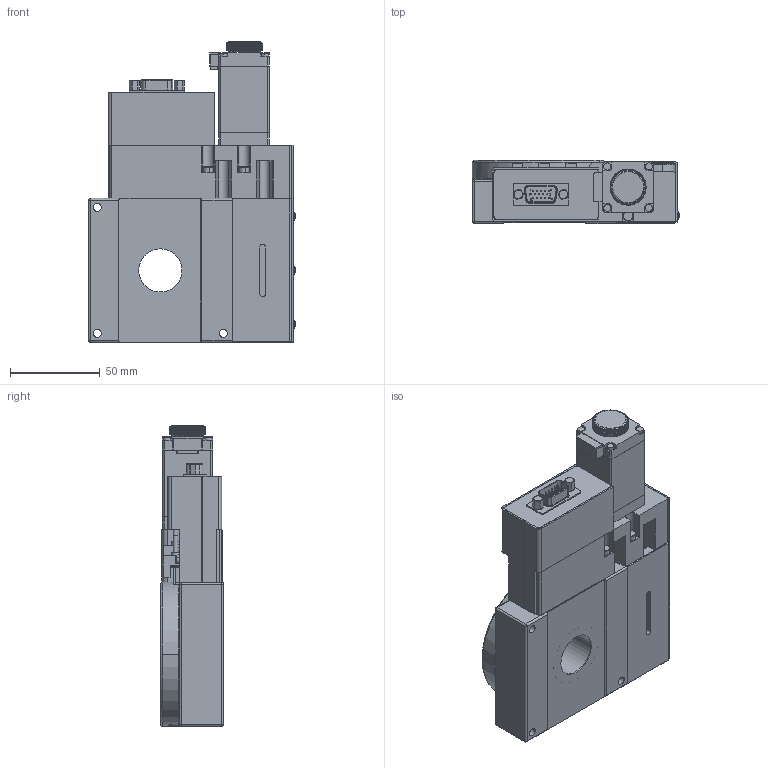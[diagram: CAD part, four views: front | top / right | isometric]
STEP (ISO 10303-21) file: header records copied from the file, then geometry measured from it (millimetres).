
FILE_DESCRIPTION (( 'STEP AP203' ), '1' );
FILE_NAME ('ARH80-A2OPL_defeature.STEP', '2023-11-30T02:54:33', ( '' ), ( '' ), 'SwSTEP 2.0', 'SolidWorks 2019', '' );
FILE_SCHEMA (( 'CONFIG_CONTROL_DESIGN' ));
Length unit declared in the file: millimetre
Products named in the file (6): 複製 of Group1^組合件5_ARH80-A2OPL_defeature_GMT; Group3^ARH80-A2OPL_defeature_GMT; 組合件5^ARH80-A2OPL_defeature; Group4^ARH80-A2OPL_defeature_GMT; ARH80-A2OPL_defeature; 複製 of ARH80-A2PL-14-1^組合件5_ARH80-A2OPL_defeature_GMT
Assembly tree (5 placements, depth 3):
  ARH80-A2OPL_defeature
    組合件5^ARH80-A2OPL_defeature
      複製 of Group1^組合件5_ARH80-A2OPL_defeature_GMT
      複製 of ARH80-A2PL-14-1^組合件5_ARH80-A2OPL_defeature_GMT
    Group3^ARH80-A2OPL_defeature_GMT
    Group4^ARH80-A2OPL_defeature_GMT
Bounding box: 115.13 x 35 x 167.1 mm (x, y, z)
Volume: 380037.5 mm3; surface area: 112878.5 mm2
Topology: 10 solids, 10 shells, 2299 faces, 6000 edges, 3851 vertices
Faces by surface type: plane 1263, cylinder 505, torus 241, bspline 207, cone 69, sphere 14
Entity records: 88277 total; most frequent: CARTESIAN_POINT 33036, ORIENTED_EDGE 11940, DIRECTION 10540, EDGE_CURVE 5970, VERTEX_POINT 3851, AXIS2_PLACEMENT_3D 3638, VECTOR 3264, LINE 3264
